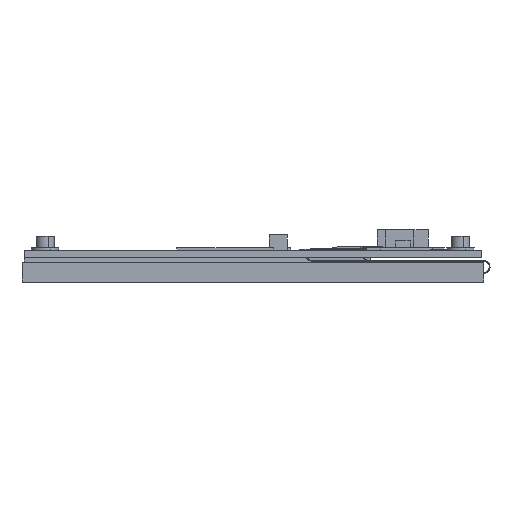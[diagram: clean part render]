
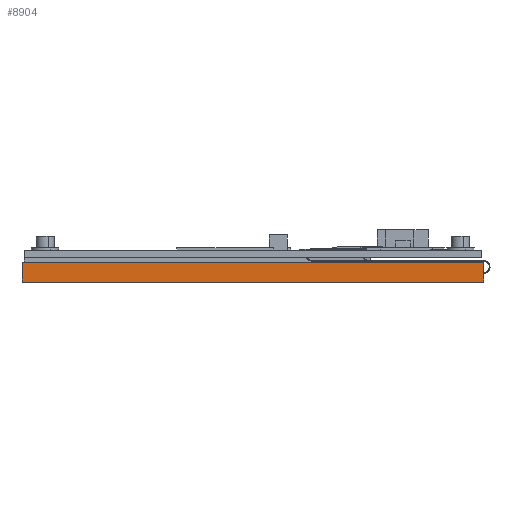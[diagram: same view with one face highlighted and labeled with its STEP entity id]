
A CAD part, left-side view. The second image highlights one B-rep face of the part: STEP entity #8904.
In plain terms, the highlighted planar face has unit normal (-1, 0, 0).
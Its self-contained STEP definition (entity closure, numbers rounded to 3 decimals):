
#5312 = PLANE ( 'NONE',  #85815 ) ;
#5477 = EDGE_LOOP ( 'NONE', ( #24007, #75579, #67826, #25521 ) ) ;
#8904 = ADVANCED_FACE ( 'NONE', ( #82385 ), #5312, .T. ) ;
#9792 = CARTESIAN_POINT ( 'NONE',  ( -82.45, 3.26, -5.32 ) ) ;
#10686 = CARTESIAN_POINT ( 'NONE',  ( -82.45, 16.667, -1. ) ) ;
#12186 = CARTESIAN_POINT ( 'NONE',  ( -82.45, 50., -5.32 ) ) ;
#18019 = VERTEX_POINT ( 'NONE', #48035 ) ;
#18494 = CARTESIAN_POINT ( 'NONE',  ( -82.45, 50., -5.32 ) ) ;
#19078 = CARTESIAN_POINT ( 'NONE',  ( -82.45, -50., -1. ) ) ;
#21023 = B_SPLINE_CURVE_WITH_KNOTS ( 'NONE', 3,
 ( #19078, #97270, #10686, #45515 ),
 .UNSPECIFIED., .F., .F.,
 ( 4, 4 ),
 ( 0., 1. ),
 .UNSPECIFIED. ) ;
#22636 = CARTESIAN_POINT ( 'NONE',  ( -82.45, -50., -5.32 ) ) ;
#24007 = ORIENTED_EDGE ( 'NONE', *, *, #27877, .F. ) ;
#24953 = DIRECTION ( 'NONE',  ( 0., 1., 0. ) ) ;
#25521 = ORIENTED_EDGE ( 'NONE', *, *, #33429, .T. ) ;
#27877 = EDGE_CURVE ( 'NONE', #18019, #100088, #85083, .T. ) ;
#30162 = CARTESIAN_POINT ( 'NONE',  ( -82.45, 50., -1. ) ) ;
#33429 = EDGE_CURVE ( 'NONE', #91886, #100088, #55888, .T. ) ;
#39005 = EDGE_CURVE ( 'NONE', #47454, #91886, #21023, .T. ) ;
#39089 = CARTESIAN_POINT ( 'NONE',  ( -82.45, 50., -2.44 ) ) ;
#45515 = CARTESIAN_POINT ( 'NONE',  ( -82.45, 50., -1. ) ) ;
#47454 = VERTEX_POINT ( 'NONE', #110819 ) ;
#48035 = CARTESIAN_POINT ( 'NONE',  ( -82.45, -50., -5.32 ) ) ;
#49595 = CARTESIAN_POINT ( 'NONE',  ( -82.45, -50., -1. ) ) ;
#50267 = DIRECTION ( 'NONE',  ( -1., 0., 0. ) ) ;
#55888 = B_SPLINE_CURVE_WITH_KNOTS ( 'NONE', 3,
 ( #30162, #39089, #97721, #12186 ),
 .UNSPECIFIED., .F., .F.,
 ( 4, 4 ),
 ( 0., 1. ),
 .UNSPECIFIED. ) ;
#59029 = EDGE_CURVE ( 'NONE', #18019, #47454, #90593, .T. ) ;
#67826 = ORIENTED_EDGE ( 'NONE', *, *, #39005, .T. ) ;
#69704 = CARTESIAN_POINT ( 'NONE',  ( -82.45, -16.667, -5.32 ) ) ;
#75579 = ORIENTED_EDGE ( 'NONE', *, *, #59029, .T. ) ;
#77598 = CARTESIAN_POINT ( 'NONE',  ( -82.45, -50., -5.32 ) ) ;
#79277 = CARTESIAN_POINT ( 'NONE',  ( -82.45, 16.667, -5.32 ) ) ;
#82385 = FACE_OUTER_BOUND ( 'NONE', #5477, .T. ) ;
#85083 = B_SPLINE_CURVE_WITH_KNOTS ( 'NONE', 3,
 ( #77598, #69704, #79277, #18494 ),
 .UNSPECIFIED., .F., .F.,
 ( 4, 4 ),
 ( 0., 1. ),
 .UNSPECIFIED. ) ;
#85815 = AXIS2_PLACEMENT_3D ( 'NONE', #9792, #50267, #24953 ) ;
#86122 = CARTESIAN_POINT ( 'NONE',  ( -82.45, 50., -5.32 ) ) ;
#90593 = B_SPLINE_CURVE_WITH_KNOTS ( 'NONE', 3,
 ( #22636, #108151, #108713, #49595 ),
 .UNSPECIFIED., .F., .F.,
 ( 4, 4 ),
 ( 0., 1. ),
 .UNSPECIFIED. ) ;
#91886 = VERTEX_POINT ( 'NONE', #99440 ) ;
#97270 = CARTESIAN_POINT ( 'NONE',  ( -82.45, -16.667, -1. ) ) ;
#97721 = CARTESIAN_POINT ( 'NONE',  ( -82.45, 50., -3.88 ) ) ;
#99440 = CARTESIAN_POINT ( 'NONE',  ( -82.45, 50., -1. ) ) ;
#100088 = VERTEX_POINT ( 'NONE', #86122 ) ;
#108151 = CARTESIAN_POINT ( 'NONE',  ( -82.45, -50., -3.88 ) ) ;
#108713 = CARTESIAN_POINT ( 'NONE',  ( -82.45, -50., -2.44 ) ) ;
#110819 = CARTESIAN_POINT ( 'NONE',  ( -82.45, -50., -1. ) ) ;
